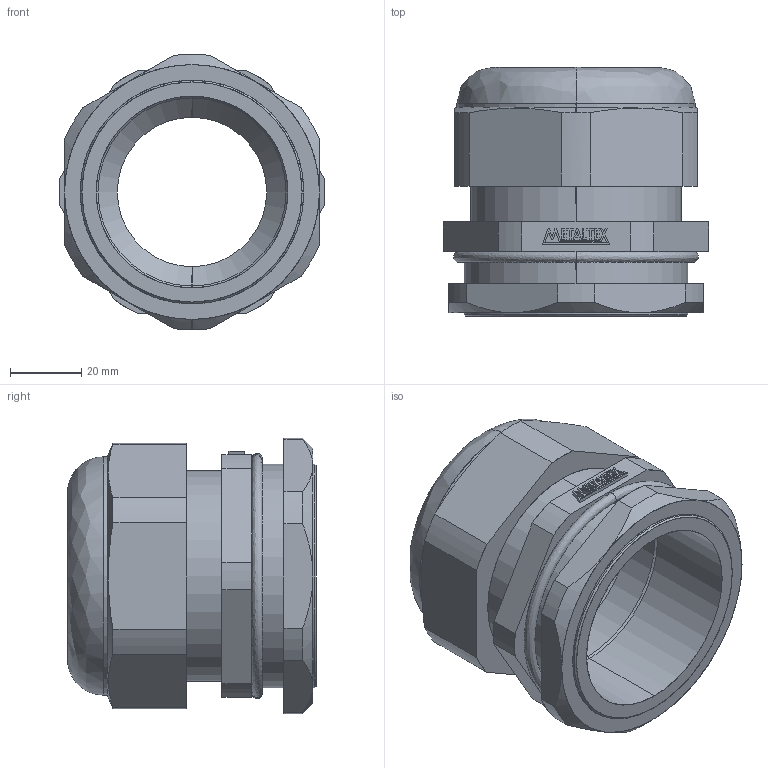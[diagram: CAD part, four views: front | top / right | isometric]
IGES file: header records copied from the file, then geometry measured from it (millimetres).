
Start section: SolidWorks IGES file using analytic representation for surfaces
Global section: file name: D:\X - Arquivos\PROEX\Empresas\P11 - METALTEX\01 - Produtos\IGES\Terceira remessa\Etapa 2\CH-M63.IGS; native system: SolidWorks 2012; preprocessor: SolidWorks 2012; author: Usuario; date: 180207.124204; units: millimetre
Bounding box: 74.75 x 70 x 77.5 mm (x, y, z)
Surface area: 35165.3 mm2 (no closed solid volume)
Topology: 0 solids, 0 shells, 178 faces, 1663 edges, 1663 vertices
Faces by surface type: bspline 125, revolution 53
